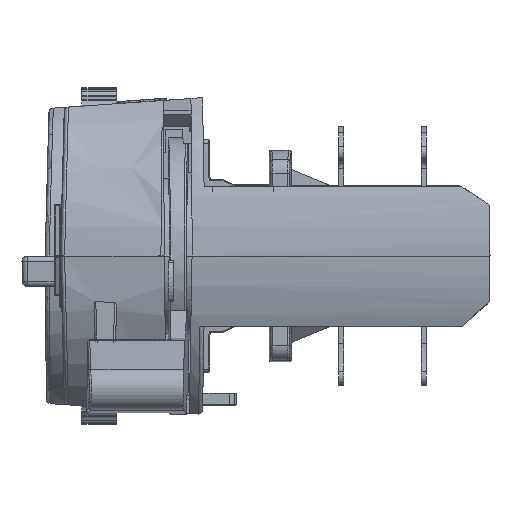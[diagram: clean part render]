
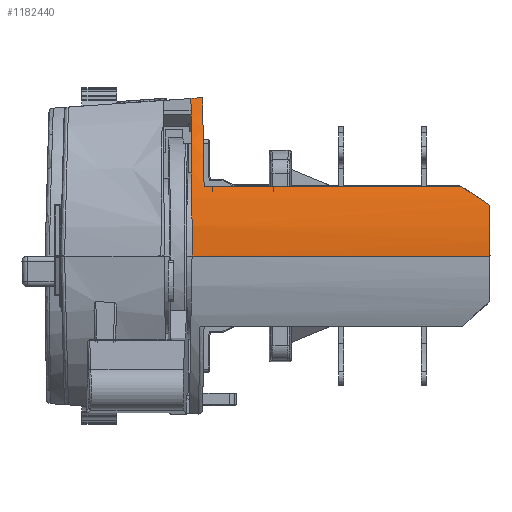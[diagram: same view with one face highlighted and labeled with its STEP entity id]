
A CAD part, left-side view. The second image highlights one B-rep face of the part: STEP entity #1182440.
In plain terms, the highlighted cylindrical face has radius 20 mm (diameter 40 mm), a partial arc.
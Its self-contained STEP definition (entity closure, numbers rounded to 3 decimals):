
#1155070=CARTESIAN_POINT('',(-123.383,7.148,
6.87));
#1155080=VERTEX_POINT('',#1155070);
#1155110=CARTESIAN_POINT('',(-104.6,7.028,0.)
);
#1155120=DIRECTION('',(0.,1.,-0.017));
#1155130=DIRECTION('',(0.,0.017,1.));
#1155140=AXIS2_PLACEMENT_3D('',#1155110,#1155120,#1155130);
#1155150=ELLIPSE('',#1155140,20.003,20.);
#1155160=CARTESIAN_POINT('',(-117.167,7.299,
15.559));
#1155170=VERTEX_POINT('',#1155160);
#1155180=EDGE_CURVE('',#1155080,#1155170,#1155150,.T.);
#1157700=CARTESIAN_POINT('',(-123.383,-18.085,
6.87));
#1157710=VERTEX_POINT('',#1157700);
#1157740=CARTESIAN_POINT('',(-123.383,7.148,
6.87));
#1157750=DIRECTION('',(0.,-1.,0.));
#1157760=VECTOR('',#1157750,1.);
#1157770=LINE('',#1157740,#1157760);
#1157780=EDGE_CURVE('',#1155080,#1157710,#1157770,.T.);
#1181720=CARTESIAN_POINT('',(-104.6,229.804,0.)
);
#1181730=DIRECTION('',(0.,0.07,0.998));
#1181740=DIRECTION('',(0.,-0.998,0.07));
#1181750=AXIS2_PLACEMENT_3D('',#1181720,#1181730,#1181740);
#1181760=ELLIPSE('',#1181750,286.712,20.);
#1181770=CARTESIAN_POINT('',(-117.264,8.435,
15.48));
#1181780=VERTEX_POINT('',#1181770);
#1181790=EDGE_CURVE('',#1181780,#1155170,#1181760,.T.);
#1181990=CARTESIAN_POINT('',(-104.6,14.8,0.));
#1182000=DIRECTION('',(0.,-1.,0.));
#1182010=DIRECTION('',(-1.,0.,0.));
#1182020=AXIS2_PLACEMENT_3D('',#1181990,#1182000,#1182010);
#1182030=CYLINDRICAL_SURFACE('',#1182020,20.);
#1182040=CARTESIAN_POINT('',(-104.6,8.3,0.)
);
#1182050=DIRECTION('',(0.,1.,-0.009));
#1182060=DIRECTION('',(0.,-0.009,-1.));
#1182070=AXIS2_PLACEMENT_3D('',#1182040,#1182050,#1182060);
#1182080=ELLIPSE('',#1182070,20.001,20.);
#1182090=CARTESIAN_POINT('',(-124.6,8.3,
0.));
#1182100=VERTEX_POINT('',#1182090);
#1182110=EDGE_CURVE('',#1182100,#1181780,#1182080,.T.);
#1182120=ORIENTED_EDGE('',*,*,#1182110,.F.);
#1182130=ORIENTED_EDGE('',*,*,#1181790,.F.);
#1182140=ORIENTED_EDGE('',*,*,#1155180,.T.);
#1182150=ORIENTED_EDGE('',*,*,#1157780,.F.);
#1182160=CARTESIAN_POINT('',(-104.6,-28.45,0.
));
#1182170=DIRECTION('',(0.,0.552,-0.834));
#1182180=DIRECTION('',(0.,-0.834,-0.552));
#1182190=AXIS2_PLACEMENT_3D('',#1182160,#1182170,#1182180);
#1182200=ELLIPSE('',#1182190,36.202,20.);
#1182210=CARTESIAN_POINT('',(-123.965,-20.906,
5.));
#1182220=VERTEX_POINT('',#1182210);
#1182230=EDGE_CURVE('',#1182220,#1157710,#1182200,.T.);
#1182240=ORIENTED_EDGE('',*,*,#1182230,.T.);
#1182250=CARTESIAN_POINT('',(-123.965,-20.906,
5.));
#1182260=CARTESIAN_POINT('',(-124.106,-20.911,
4.455));
#1182270=CARTESIAN_POINT('',(-124.34,-20.921,
3.358));
#1182280=CARTESIAN_POINT('',(-124.553,-20.935,
1.684));
#1182290=CARTESIAN_POINT('',(-124.6,-20.945,
0.563));
#1182300=CARTESIAN_POINT('',(-124.6,-20.95,
0.));
#1182310=B_SPLINE_CURVE_WITH_KNOTS('',3,(#1182250,#1182260,#1182270,
#1182280,#1182290,#1182300),.UNSPECIFIED.,.F.,.F.,(4,1,1,4),(0.,
0.333,0.667,1.),.UNSPECIFIED.);
#1182320=CARTESIAN_POINT('',(-124.6,-20.95,
0.));
#1182330=VERTEX_POINT('',#1182320);
#1182340=EDGE_CURVE('',#1182220,#1182330,#1182310,.T.);
#1182350=ORIENTED_EDGE('',*,*,#1182340,.F.);
#1182360=CARTESIAN_POINT('',(-124.6,-20.95,
0.));
#1182370=DIRECTION('',(0.,1.,0.));
#1182380=VECTOR('',#1182370,1.);
#1182390=LINE('',#1182360,#1182380);
#1182400=EDGE_CURVE('',#1182330,#1182100,#1182390,.T.);
#1182410=ORIENTED_EDGE('',*,*,#1182400,.F.);
#1182420=EDGE_LOOP('',(#1182410,#1182350,#1182240,#1182150,#1182140,
#1182130,#1182120));
#1182430=FACE_OUTER_BOUND('',#1182420,.T.);
#1182440=ADVANCED_FACE('',(#1182430),#1182030,.T.);
